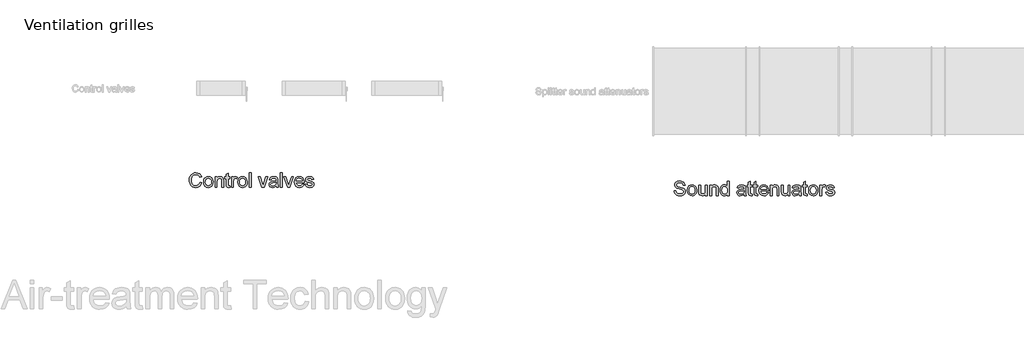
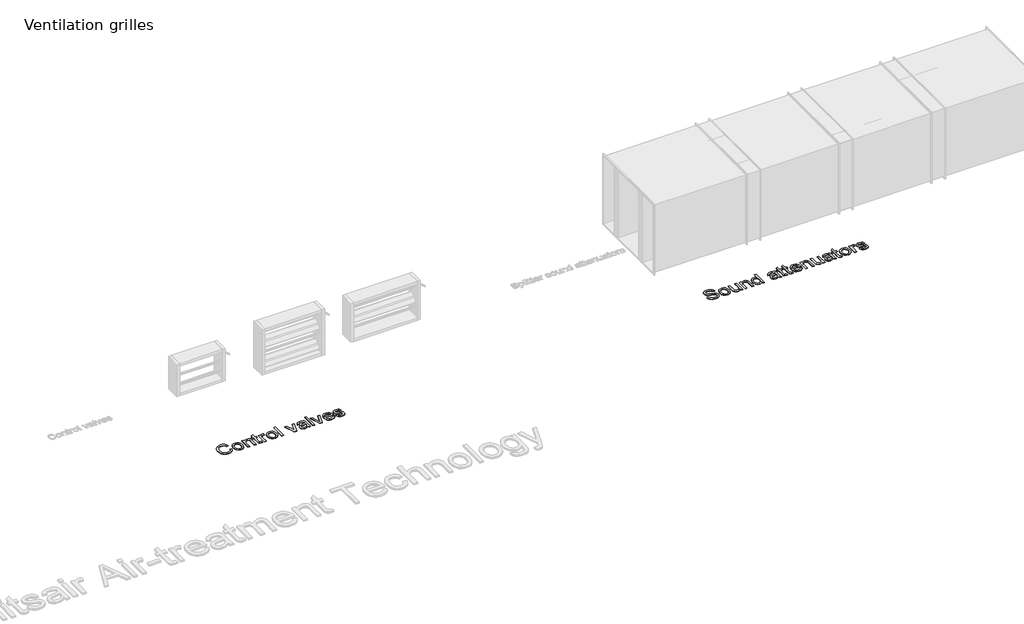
# One storey, part 6 of 10: 2 proxies.
"""IFC4 building model written with IfcOpenShell, lengths in millimetres."""

import ifcopenshell
import ifcopenshell.guid

model = None  # the IFC model being written
_history = None  # IfcOwnerHistory: only IFC2X3 demands one
_inside = {}  # id of a spatial element -> (the spatial element, [elements in it])
_under = {}  # id of a project, library or spatial element -> (it, [spatial elements below it])
_declared = {}  # id of a project -> (the project, [libraries it declares])
_typed = {}  # id of a type object -> (the type object, [elements of that type])
_made_of = {}  # id of a material, layer set ... -> (it, [elements and type objects made of it])


def new_model(schema):
    """Start an empty IFC model of exactly this schema.

    Asked for "IFC4X3", IfcOpenShell would pick the latest addendum, in which some entities
    have other attributes; the version numbers below select the first issue.
    IFC2X3 requires an IfcOwnerHistory on every rooted entity: one is made here for all.
    """
    global model, _history
    if schema == "IFC4X3":
        model = ifcopenshell.file(schema_version=(4, 3, 0, 0))
    else:
        model = ifcopenshell.file(schema=schema)
    _inside.clear()
    _under.clear()
    _declared.clear()
    _typed.clear()
    _made_of.clear()
    _history = None
    if model.schema == "IFC2X3":
        org = make("IfcOrganization", Name="unknown")
        user = make(
            "IfcPersonAndOrganization",
            ThePerson=make("IfcPerson", FamilyName="unknown"),
            TheOrganization=org,
        )
        app = make(
            "IfcApplication",
            ApplicationDeveloper=org,
            Version="unknown",
            ApplicationFullName="unknown",
            ApplicationIdentifier="unknown",
        )
        _history = make(
            "IfcOwnerHistory",
            OwningUser=user,
            OwningApplication=app,
            ChangeAction="ADDED",
            CreationDate=0,
        )
    return model


def make(cls, **values):
    """One entity of the class cls with the attributes given. An attribute that is None is left unset."""
    return model.create_entity(
        cls, **{name: value for name, value in values.items() if value is not None}
    )


def rooted(cls, **values):
    """An entity with a GlobalId (a new one), such as an element, a storey or a relation."""
    return make(cls, GlobalId=ifcopenshell.guid.new(), OwnerHistory=_history, **values)


def si_unit(unit_type, name, prefix=None):
    """IfcSIUnit, for example si_unit("LENGTHUNIT", "METRE", prefix="MILLI")."""
    return make("IfcSIUnit", UnitType=unit_type, Prefix=prefix, Name=name)


def assignment(units):
    """IfcUnitAssignment: the units of a project."""
    return None if units is None else make("IfcUnitAssignment", Units=units)


def point(xyz):
    """IfcCartesianPoint."""
    return None if xyz is None else make("IfcCartesianPoint", Coordinates=xyz)


def direction(xyz):
    """IfcDirection."""
    return None if xyz is None else make("IfcDirection", DirectionRatios=xyz)


def frame(location, z_axis=None, x_axis=None):
    """IfcAxis2Placement3D, a coordinate frame: its origin and axes. An axis left out is left unset."""
    return make(
        "IfcAxis2Placement3D",
        Location=point(location),
        Axis=direction(z_axis),
        RefDirection=direction(x_axis),
    )


def origin():
    """The frame at (0, 0, 0) with its axes left unset."""
    return frame((0.0, 0.0, 0.0))


def origin_with_axes():
    """The frame at (0, 0, 0) with the z axis (0, 0, 1) and the x axis (1, 0, 0) written out."""
    return frame((0.0, 0.0, 0.0), z_axis=(0.0, 0.0, 1.0), x_axis=(1.0, 0.0, 0.0))


def place(relative_to, where):
    """IfcLocalPlacement: puts the frame where relative to a parent placement (None: the world)."""
    return make(
        "IfcLocalPlacement", PlacementRelTo=relative_to, RelativePlacement=where
    )


def context(
    kind, dimensions, precision=None, world=None, true_north=None, identifier=None
):
    """IfcGeometricRepresentationContext, for example the 3D "Model" context."""
    return make(
        "IfcGeometricRepresentationContext",
        ContextIdentifier=identifier,
        ContextType=kind,
        CoordinateSpaceDimension=dimensions,
        Precision=precision,
        WorldCoordinateSystem=world,
        TrueNorth=true_north,
    )


def project(units=None, contexts=None):
    """IfcProject with its units and contexts."""
    return rooted(
        "IfcProject",
        Name="project",
        RepresentationContexts=contexts,
        UnitsInContext=assignment(units),
    )


def spatial(cls, under=None, at=None, **own):
    """A site, building, storey or space (cls), placed at a placement, below another one or the project."""
    s = rooted(cls, ObjectPlacement=at, **own)
    if under is not None:
        _under.setdefault(under.id(), (under, []))[1].append(s)
    return s


def polyline(points):
    """IfcPolyline through the points."""
    return make("IfcPolyline", Points=[point(p) for p in points])


def outline(outer, holes=None, kind="AREA"):
    """IfcArbitraryClosedProfileDef: a profile drawn as a closed curve; with holes, ...WithVoids."""
    if holes is None:
        return make("IfcArbitraryClosedProfileDef", ProfileType=kind, OuterCurve=outer)
    return make(
        "IfcArbitraryProfileDefWithVoids",
        ProfileType=kind,
        OuterCurve=outer,
        InnerCurves=holes,
    )


def extrude(swept, where, along, depth):
    """IfcExtrudedAreaSolid: the profile swept, set in the frame where, extruded along a direction by depth."""
    return make(
        "IfcExtrudedAreaSolid",
        SweptArea=swept,
        Position=where,
        ExtrudedDirection=direction(along),
        Depth=depth,
    )


def shape(context_of_items, identifier, shape_type, items):
    """IfcShapeRepresentation: the items that make up one representation, for example the "Body"."""
    return make(
        "IfcShapeRepresentation",
        ContextOfItems=context_of_items,
        RepresentationIdentifier=identifier,
        RepresentationType=shape_type,
        Items=items,
    )


def made_of(thing, what):
    """Note that an element or type object is made of a material, layer set ...; save() writes the relation."""
    if what is not None:
        _made_of.setdefault(what.id(), (what, []))[1].append(thing)
    return thing


def element(
    cls,
    number,
    at=None,
    inside=None,
    cuts=None,
    type_object=None,
    material=None,
    context=None,
    identifier="Body",
    shape_type=None,
    held_by="IfcProductDefinitionShape",
    body=None,
    shapes=None,
    **own,
):
    """One element of the class cls, such as IfcWall. Its Tag is "e" and its number.

    at: its placement. inside: the storey or other place that contains it. cuts: it is an
    opening in that element (IfcRelVoidsElement). A single representation is given by context,
    identifier, shape_type and body (its items); several are given by shapes. held_by: the class
    of the entity that holds the representations. save() writes the other relations.
    """
    e = rooted(cls, Tag="e%d" % number, ObjectPlacement=at, **own)
    if body is not None:
        shapes = [shape(context, identifier, shape_type, body)]
    if shapes is not None:
        e.Representation = make(held_by, Representations=shapes)
    if inside is not None:
        _inside.setdefault(inside.id(), (inside, []))[1].append(e)
    if cuts is not None:
        rooted(
            "IfcRelVoidsElement", RelatingBuildingElement=cuts, RelatedOpeningElement=e
        )
    if type_object is not None:
        _typed.setdefault(type_object.id(), (type_object, []))[1].append(e)
    return made_of(e, material)


def aggregate(whole, parts):
    """IfcRelAggregates: a whole, such as a stair, and the parts it consists of."""
    return rooted("IfcRelAggregates", RelatingObject=whole, RelatedObjects=parts)


def save(model, path):
    """Write the relations noted so far, then the file.

    IfcRelAggregates (storeys below a building ...), IfcRelContainedInSpatialStructure (elements
    in a storey), IfcRelDefinesByType, IfcRelAssociatesMaterial and IfcRelDeclares: one each for
    every whole, place, type object, material and project.
    """
    for whole, parts in _under.values():
        aggregate(whole, parts)
    for where, things in _inside.values():
        rooted(
            "IfcRelContainedInSpatialStructure",
            RelatedElements=things,
            RelatingStructure=where,
        )
    for kind, things in _typed.values():
        rooted("IfcRelDefinesByType", RelatedObjects=things, RelatingType=kind)
    for what, things in _made_of.values():
        rooted("IfcRelAssociatesMaterial", RelatedObjects=things, RelatingMaterial=what)
    for by, libraries in _declared.values():
        rooted("IfcRelDeclares", RelatingContext=by, RelatedDefinitions=libraries)
    model.write(path)


model = new_model("IFC4")

# Units and contexts
model_context = context("Model", 3, world=origin())
ifc_project = project(units=[si_unit("LENGTHUNIT", "METRE", prefix="MILLI")], contexts=[model_context])

# Site, building, storey
site = spatial("IfcSite", under=ifc_project)
building = spatial("IfcBuilding", under=site)
storey = spatial("IfcBuildingStorey", under=building, Name="Ventilation grilles", Elevation=0.0)

# Proxies
placement = place(None, origin())
element("IfcBuildingElementProxy", 1, Name="200mm", ObjectType="200mm", at=placement, inside=storey, context=model_context, shape_type="SweptSolid", body=[
    extrude(outline(polyline([(12217.5311256, -16347.8612173), (12242.6452032, -16354.3359404), (12231.0569203, -16383.6009531), (12212.871287, -16404.9810284), (12188.9834828, -16418.0592333), (12160.2886872, -16422.418635), (12131.1585645, -16419.1199597), (12108.0249184, -16409.2239341), (12090.2930062, -16393.0739145), (12077.3680855, -16371.0132575), (12069.4770167, -16345.0775768), (12066.8466604, -16317.3024862), (12069.8203732, -16288.0068167), (12078.7415116, -16262.7087981), (12093.1440917, -16242.2116396), (12112.5621297, -16227.3185502), (12135.5915426, -16218.250259), (12160.8282474, -16215.2274953), (12188.3642148, -16219.1393072), (12211.1299789, -16230.8747428), (12228.4143013, -16249.710301), (12239.5059435, -16274.9224804), (12214.3918659, -16280.9066942), (12205.6853254, -16262.5923022), (12193.7904742, -16250.029132), (12178.5601596, -16242.7634626), (12159.8472288, -16240.3415728), (12138.2770811, -16243.0271114), (12120.5574317, -16251.0837271), (12107.1113448, -16263.6652913), (12098.3618847, -16279.9256755), (12093.5610246, -16298.3075125), (12091.9607379, -16317.2534353), (12093.8553302, -16340.4545264), (12099.539107, -16360.5163579), (12109.2266663, -16376.6725089), (12123.1326057, -16388.1565585), (12139.8037914, -16395.0175577), (12157.7870896, -16397.3045574), (12178.750232, -16394.1898232), (12196.2184954, -16384.8456205), (12209.4070649, -16369.3700513), (12217.5311256, -16347.8612173)])), origin_with_axes(), (0.0, 0.0, 1.0), 5.0),
    extrude(outline(polyline([(12267.7592807, -16345.5067725), (12273.1916715, -16309.9325836), (12279.98216, -16296.1094176), (12289.4888439, -16284.9288706), (12309.6242518, -16272.6784002), (12333.7327852, -16268.59491), (12360.1160556, -16273.5674484), (12381.1895626, -16288.4850633), (12395.0035315, -16312.1705324), (12399.6081878, -16343.4466333), (12397.5725741, -16368.8182283), (12391.465733, -16388.132033), (12381.4654741, -16402.5959268), (12367.749607, -16413.4177888), (12351.458566, -16420.1684234), (12333.7327852, -16422.418635), (12307.0306837, -16417.4644908), (12285.9817022, -16402.6020582), (12272.3148861, -16378.4199483), (12267.7592807, -16345.5067725)]), holes=[polyline([(12292.8733582, -16345.4577216), (12295.779626, -16368.1866975), (12304.4984293, -16384.3796367), (12317.6195538, -16394.0733272), (12333.7327852, -16397.3045574), (12349.7724402, -16394.0549331), (12362.8690392, -16384.3060603), (12371.5878425, -16367.8985233), (12374.4941102, -16344.6729067), (12371.5694484, -16322.6061183), (12362.7954628, -16306.6339083), (12349.6804697, -16296.9402178), (12333.7327852, -16293.7089876), (12317.6195538, -16296.927955), (12304.4984293, -16306.5848574), (12295.779626, -16322.7410084), (12292.8733582, -16345.4577216)])]), origin_with_axes(), (0.0, 0.0, 1.0), 5.0),
    extrude(outline(polyline([(12427.861525, -16419.2793753), (12427.861525, -16271.7341697), (12452.9756025, -16271.7341697), (12452.9756025, -16292.3355615), (12461.7005372, -16281.9490265), (12472.1790427, -16274.5300729), (12484.411119, -16270.0787008), (12498.3967662, -16268.59491), (12522.1128922, -16273.377376), (12538.2997, -16285.9344148), (12545.8290181, -16304.4020909), (12547.1533933, -16328.6823026), (12547.1533933, -16419.2793753), (12522.0393158, -16419.2793753), (12522.0393158, -16332.0668169), (12519.1453107, -16309.8467444), (12508.9181913, -16298.0990461), (12491.6767884, -16293.7089876), (12476.96764, -16296.173797), (12464.4289953, -16303.5682251), (12455.8389507, -16317.8543092), (12452.9756025, -16340.9940867), (12452.9756025, -16419.2793753), (12427.861525, -16419.2793753)])), origin_with_axes(), (0.0, 0.0, 1.0), 5.0),
    extrude(outline(polyline([(12635.0526647, -16398.334627), (12638.1919244, -16420.0151393), (12619.4054172, -16422.418635), (12598.362567, -16418.2493057), (12587.8656674, -16407.3109477), (12584.8245096, -16378.8123558), (12584.8245096, -16296.8482473), (12565.9889515, -16296.8482473), (12565.9889515, -16271.7341697), (12584.8245096, -16271.7341697), (12584.8245096, -16235.8779379), (12609.9385872, -16221.1136072), (12609.9385872, -16271.7341697), (12635.0526647, -16271.7341697), (12635.0526647, -16296.8482473), (12609.9385872, -16296.8482473), (12609.9385872, -16378.0765918), (12611.2629623, -16391.026038), (12615.554919, -16395.6123003), (12624.1143067, -16397.3045574), (12635.0526647, -16398.334627)])), origin_with_axes(), (0.0, 0.0, 1.0), 5.0),
    extrude(outline(polyline([(12660.1667422, -16419.2793753), (12660.1667422, -16271.7341697), (12682.1415601, -16271.7341697), (12682.1415601, -16293.5618348), (12697.7397567, -16273.4509524), (12713.4360551, -16268.59491), (12725.944043, -16270.5324219), (12738.6482345, -16276.3449574), (12730.260525, -16298.8593355), (12712.6021893, -16293.7089876), (12698.4019443, -16298.6631318), (12689.3520472, -16312.3973929), (12685.2808198, -16341.7298507), (12685.2808198, -16419.2793753), (12660.1667422, -16419.2793753)])), origin_with_axes(), (0.0, 0.0, 1.0), 5.0),
    extrude(outline(polyline([(12748.0660136, -16345.5067725), (12753.4984044, -16309.9325836), (12760.2888929, -16296.1094176), (12769.7955768, -16284.9288706), (12789.9309847, -16272.6784002), (12814.0395181, -16268.59491), (12840.4227885, -16273.5674484), (12861.4962955, -16288.4850633), (12875.3102644, -16312.1705324), (12879.9149207, -16343.4466333), (12877.879307, -16368.8182283), (12871.7724659, -16388.132033), (12861.772207, -16402.5959268), (12848.0563399, -16413.4177888), (12831.7652989, -16420.1684234), (12814.0395181, -16422.418635), (12787.3374166, -16417.4644908), (12766.2884351, -16402.6020582), (12752.621619, -16378.4199483), (12748.0660136, -16345.5067725)]), holes=[polyline([(12773.1800912, -16345.4577216), (12776.0863589, -16368.1866975), (12784.8051622, -16384.3796367), (12797.9262867, -16394.0733272), (12814.0395181, -16397.3045574), (12830.0791731, -16394.0549331), (12843.1757721, -16384.3060603), (12851.8945754, -16367.8985233), (12854.8008431, -16344.6729067), (12851.8761813, -16322.6061183), (12843.1021957, -16306.6339083), (12829.9872026, -16296.9402178), (12814.0395181, -16293.7089876), (12797.9262867, -16296.927955), (12784.8051622, -16306.5848574), (12776.0863589, -16322.7410084), (12773.1800912, -16345.4577216)])]), origin_with_axes(), (0.0, 0.0, 1.0), 5.0),
    extrude(outline(polyline([(12908.1682579, -16419.2793753), (12908.1682579, -16218.366755), (12933.2823355, -16218.366755), (12933.2823355, -16419.2793753), (12908.1682579, -16419.2793753)])), origin_with_axes(), (0.0, 0.0, 1.0), 5.0),
    extrude(outline(polyline([(13085.6345324, -16419.2793753), (13033.7386456, -16271.7341697), (13060.3242511, -16271.7341697), (13091.765899, -16360.1239504), (13101.232729, -16389.8488157), (13110.5033553, -16361.7916822), (13142.1412068, -16271.7341697), (13168.7268124, -16271.7341697), (13117.4685877, -16419.2793753), (13085.6345324, -16419.2793753)])), origin_with_axes(), (0.0, 0.0, 1.0), 5.0),
    extrude(outline(polyline([(13284.879421, -16400.4438171), (13260.5256329, -16417.4644908), (13233.6211963, -16422.418635), (13212.6335285, -16419.4387908), (13197.1518279, -16410.4992583), (13187.6052901, -16396.9244127), (13184.4231108, -16380.0386291), (13189.2301022, -16360.1730014), (13201.8607174, -16345.7520272), (13219.4454768, -16337.5114705), (13241.1750399, -16333.7345487), (13284.7322682, -16325.1015845), (13284.879421, -16319.5097782), (13283.1503756, -16308.3016401), (13277.9632395, -16300.9685256), (13266.3626939, -16295.5238721), (13250.2004116, -16293.7089876), (13235.2398771, -16294.9168668), (13224.7920284, -16298.5405045), (13217.6673805, -16305.2420881), (13212.6764481, -16315.6838054), (13187.5623705, -16312.5445457), (13198.4271521, -16288.0190794), (13207.6855157, -16279.76626), (13220.3038681, -16273.6471561), (13253.4377731, -16268.59491), (13283.8738769, -16273.0585449), (13301.0662288, -16284.266683), (13308.7672252, -16301.3118822), (13309.9934985, -16323.2867), (13309.9934985, -16354.5321441), (13311.2688228, -16398.1629487), (13316.2720179, -16419.2793753), (13291.1579404, -16419.2793753), (13284.879421, -16400.4438171)]), holes=[polyline([(13284.879421, -16350.215662), (13244.3633506, -16357.9166585), (13222.7564147, -16361.9878859), (13212.9707537, -16368.6097618), (13209.5371884, -16378.2727955), (13211.4072552, -16385.7408), (13217.0174556, -16391.8599039), (13226.2451623, -16395.943394), (13238.967748, -16397.3045574), (13252.4567545, -16395.8023726), (13264.3761311, -16391.2958182), (13280.7591426, -16376.7522166), (13284.7322682, -16357.3280473), (13284.879421, -16350.215662)])]), origin_with_axes(), (0.0, 0.0, 1.0), 5.0),
    extrude(outline(polyline([(13344.5253551, -16419.2793753), (13344.5253551, -16218.366755), (13369.6394327, -16218.366755), (13369.6394327, -16419.2793753), (13344.5253551, -16419.2793753)])), origin_with_axes(), (0.0, 0.0, 1.0), 5.0),
    extrude(outline(polyline([(13443.5101373, -16419.2793753), (13391.6142505, -16271.7341697), (13418.199856, -16271.7341697), (13449.6415039, -16360.1239504), (13459.1083339, -16389.8488157), (13468.3789602, -16361.7916822), (13500.0168118, -16271.7341697), (13526.6024173, -16271.7341697), (13475.3441926, -16419.2793753), (13443.5101373, -16419.2793753)])), origin_with_axes(), (0.0, 0.0, 1.0), 5.0),
    extrude(outline(polyline([(13651.8784994, -16375.3297396), (13676.5020676, -16378.4689993), (13667.6299801, -16397.0225146), (13653.4726547, -16410.8916658), (13634.3489223, -16419.5368927), (13610.577614, -16422.418635), (13581.1102662, -16417.4460967), (13558.4364726, -16402.5284818), (13543.9787102, -16378.6345462), (13539.159456, -16346.7330458), (13544.0277611, -16313.7585563), (13558.6326763, -16289.0981999), (13580.9999016, -16273.7207325), (13609.155137, -16268.59491), (13636.4335869, -16273.7084698), (13658.2305951, -16289.049149), (13672.5228107, -16313.6604545), (13677.2868825, -16346.585893), (13677.1397297, -16353.3549217), (13564.2735336, -16353.3549217), (13568.6206725, -16372.1536917), (13578.7190333, -16385.973792), (13593.2932916, -16394.4718661), (13611.0681234, -16397.3045574), (13635.6916916, -16392.0561076), (13644.8396905, -16385.2502907), (13651.8784994, -16375.3297396)]), holes=[polyline([(13564.2735336, -16328.2408442), (13652.172805, -16328.2408442), (13648.7760279, -16314.9725669), (13642.1173638, -16305.4812114), (13627.4756603, -16296.6520435), (13609.0570351, -16293.7089876), (13592.128332, -16296.057301), (13578.1304221, -16303.1022412), (13568.3999433, -16314.0835188), (13564.2735336, -16328.2408442)])]), origin_with_axes(), (0.0, 0.0, 1.0), 5.0),
    extrude(outline(polyline([(13692.983181, -16375.3297396), (13718.0972585, -16372.1904799), (13722.0581213, -16382.9326341), (13729.7223295, -16390.8298343), (13741.1389341, -16395.6858766), (13756.356986, -16397.3045574), (13771.3910969, -16395.8207667), (13781.9615729, -16391.3693946), (13788.2155668, -16384.9191969), (13790.3002314, -16377.4389297), (13788.203304, -16371.037783), (13781.9125219, -16366.1572152), (13756.0626804, -16358.995779), (13718.2444113, -16346.7085204), (13708.6733481, -16340.5342342), (13701.7387724, -16332.3611225), (13696.1224406, -16312.1030873), (13700.6351265, -16293.3901565), (13712.9469106, -16279.0918096), (13728.9129892, -16271.6605933), (13750.519925, -16268.59491), (13781.0786561, -16273.5245288), (13792.5075234, -16279.3248016), (13800.5028254, -16286.8663825), (13809.1357896, -16309.405286), (13784.021712, -16312.5445457), (13780.8517955, -16304.6412142), (13774.5794075, -16298.6876573), (13752.4819623, -16293.7089876), (13738.0609881, -16294.8984727), (13728.4470053, -16298.4669281), (13723.03914, -16303.617276), (13721.2365182, -16309.5524388), (13724.2286251, -16316.8610278), (13733.5973532, -16322.4037832), (13755.2288145, -16327.7503349), (13792.0905905, -16339.5716097), (13809.209366, -16352.9625143), (13813.8630732, -16362.809489), (13815.414309, -16374.7901793), (13813.5932931, -16387.1755398), (13808.1302454, -16398.8251363), (13799.2336325, -16408.8253952), (13787.1119208, -16416.2627429), (13772.4702174, -16420.879662), (13756.0136295, -16422.418635), (13730.6910855, -16419.4510535), (13712.2111466, -16410.5483093), (13699.874837, -16395.808504), (13692.983181, -16375.3297396)])), origin_with_axes(), (0.0, 0.0, 1.0), 5.0),
])
element("IfcBuildingElementProxy", 2, Name="200mm", ObjectType="200mm", at=placement, inside=storey, context=model_context, shape_type="SweptSolid", body=[
    extrude(outline(polyline([(18861.4200018, -16466.1604862), (18886.5340794, -16466.1604862), (18894.6274833, -16491.2990893), (18902.7576754, -16500.1895708), (18914.3950091, -16507.1915914), (18928.6197796, -16511.7349341), (18944.5122818, -16513.2493816), (18970.7545308, -16508.6631194), (18987.701628, -16496.0570297), (18993.2689089, -16479.2080343), (18989.0995796, -16463.5362613), (18982.7474838, -16457.3374497), (18972.029855, -16452.1319195), (18935.4623847, -16442.5424622), (18896.0990112, -16430.1571017), (18883.5971548, -16421.7080785), (18874.7373301, -16411.4686963), (18869.4582234, -16399.6596843), (18867.6985212, -16386.5017716), (18869.8751563, -16371.7926231), (18876.4050618, -16358.0767561), (18887.1165592, -16346.451685), (18901.8379704, -16338.0149246), (18919.5085689, -16332.8829708), (18939.0676283, -16331.1723195), (18960.2576312, -16332.9626785), (18978.7988838, -16338.3337557), (18994.0291984, -16347.1751863), (19005.2863874, -16359.3766058), (19012.4110354, -16374.1777247), (19015.2437267, -16390.8182536), (18990.1296492, -16390.8182536), (18985.5188615, -16375.8331937), (18975.9048787, -16365.017463), (18960.8830306, -16358.4691635), (18940.0486469, -16356.286397), (18918.7237539, -16358.4446381), (18904.0943133, -16364.9193612), (18895.6330274, -16374.4475048), (18892.8125987, -16385.7660076), (18894.8114243, -16395.4167786), (18900.8079008, -16403.1790887), (18914.9836203, -16410.1197956), (18941.8144805, -16417.2076554), (18986.2546255, -16429.8137451), (19000.5713665, -16438.9249559), (19010.5593627, -16450.1698822), (19016.4270805, -16463.4258967), (19018.3829864, -16478.5703722), (19016.1327749, -16494.0520728), (19009.3821403, -16508.6140685), (18998.4069941, -16521.1465818), (18983.4832478, -16530.5398354), (18965.5367378, -16536.4075532), (18945.4933005, -16538.3634592), (18920.8881263, -16536.2542691), (18900.6362225, -16529.9266987), (18884.504597, -16519.3562227), (18872.260258, -16504.5183156), (18864.399846, -16486.4430469), (18861.4200018, -16466.1604862)])), origin_with_axes(), (0.0, 0.0, 1.0), 5.0),
    extrude(outline(polyline([(19046.6363237, -16461.4515967), (19052.0687145, -16425.8774078), (19058.859203, -16412.0542418), (19068.3658868, -16400.8736948), (19088.5012947, -16388.6232244), (19112.6098281, -16384.5397342), (19138.9930986, -16389.5122726), (19160.0666055, -16404.4298875), (19173.8805744, -16428.1153566), (19178.4852307, -16459.3914575), (19176.449617, -16484.7630525), (19170.3427759, -16504.0768572), (19160.342517, -16518.540751), (19146.62665, -16529.362613), (19130.3356089, -16536.1132476), (19112.6098281, -16538.3634592), (19085.9077267, -16533.409315), (19064.8587452, -16518.5468824), (19051.191929, -16494.3647725), (19046.6363237, -16461.4515967)]), holes=[polyline([(19071.7504012, -16461.4025458), (19074.656669, -16484.1315217), (19083.3754723, -16500.3244609), (19096.4965967, -16510.0181514), (19112.6098281, -16513.2493816), (19128.6494831, -16509.9997573), (19141.7460822, -16500.2508845), (19150.4648854, -16483.8433475), (19153.3711532, -16460.6177309), (19150.4464913, -16438.5509425), (19141.6725058, -16422.5787326), (19128.5575126, -16412.885042), (19112.6098281, -16409.6538118), (19096.4965967, -16412.8727792), (19083.3754723, -16422.5296816), (19074.656669, -16438.6858326), (19071.7504012, -16461.4025458)])]), origin_with_axes(), (0.0, 0.0, 1.0), 5.0),
    extrude(outline(polyline([(19300.9163587, -16535.2241995), (19300.9163587, -16509.8648673), (19291.8296735, -16522.3330012), (19281.2469347, -16531.2388112), (19269.1681425, -16536.5822972), (19255.5932969, -16538.3634592), (19231.9752728, -16533.360264), (19215.6903632, -16520.8032253), (19208.2100959, -16502.3110236), (19206.738568, -16478.9627797), (19206.738568, -16387.6789939), (19231.8526455, -16387.6789939), (19231.8526455, -16467.1415049), (19233.3732244, -16492.7460918), (19237.0336503, -16501.2870854), (19243.3060383, -16507.7802026), (19262.0189691, -16513.2493816), (19282.9882428, -16507.6575753), (19291.3452955, -16501.0540935), (19296.8451313, -16492.4272607), (19300.9163587, -16464.4437036), (19300.9163587, -16387.6789939), (19326.0304363, -16387.6789939), (19326.0304363, -16535.2241995), (19300.9163587, -16535.2241995)])), origin_with_axes(), (0.0, 0.0, 1.0), 5.0),
    extrude(outline(polyline([(19360.5622929, -16535.2241995), (19360.5622929, -16387.6789939), (19385.6763704, -16387.6789939), (19385.6763704, -16408.2803857), (19394.4013051, -16397.8938507), (19404.8798106, -16390.4748971), (19417.1118869, -16386.023525), (19431.0975341, -16384.5397342), (19454.81366, -16389.3222002), (19471.0004678, -16401.879239), (19478.529786, -16420.3469151), (19479.8541612, -16444.6271268), (19479.8541612, -16535.2241995), (19454.7400836, -16535.2241995), (19454.7400836, -16448.0116412), (19451.8460786, -16425.7915686), (19441.6189592, -16414.0438703), (19424.3775563, -16409.6538118), (19409.6684079, -16412.1186212), (19397.1297632, -16419.5130493), (19388.5397186, -16433.7991334), (19385.6763704, -16456.9389109), (19385.6763704, -16535.2241995), (19360.5622929, -16535.2241995)])), origin_with_axes(), (0.0, 0.0, 1.0), 5.0),
    extrude(outline(polyline([(19605.4245489, -16535.2241995), (19605.4245489, -16511.532599), (19597.9105591, -16523.2711003), (19588.8085454, -16531.6557441), (19578.1185078, -16536.6865304), (19565.8404462, -16538.3634592), (19549.6045875, -16535.935438), (19534.7421549, -16528.6513745), (19522.1605906, -16517.0201721), (19512.767337, -16501.5507342), (19506.9180133, -16482.8684602), (19504.9682387, -16461.5987495), (19506.7647291, -16440.5926876), (19512.1542004, -16421.6222394), (19521.130521, -16405.7665254), (19533.6875598, -16394.1046661), (19548.8749548, -16386.9309672), (19565.7423443, -16384.5397342), (19578.029603, -16386.2503855), (19588.8943846, -16391.3823394), (19605.4245489, -16409.1633025), (19605.4245489, -16334.3115792), (19630.5386264, -16334.3115792), (19630.5386264, -16535.2241995), (19605.4245489, -16535.2241995)]), holes=[polyline([(19530.0823163, -16461.5006476), (19532.9150076, -16484.2173608), (19541.4130817, -16500.3735118), (19553.761654, -16510.0304142), (19568.14584, -16513.2493816), (19582.5238947, -16510.177567), (19594.5597673, -16500.962123), (19602.7083535, -16485.4313714), (19605.4245489, -16463.413634), (19602.6593025, -16439.3418888), (19594.3635636, -16422.652309), (19582.0211226, -16412.9034361), (19567.1157704, -16409.6538118), (19552.5844316, -16412.7746774), (19540.6773177, -16422.1372742), (19532.7310666, -16438.2198487), (19530.0823163, -16461.5006476)])]), origin_with_axes(), (0.0, 0.0, 1.0), 5.0),
    extrude(outline(polyline([(19840.8690258, -16516.3886413), (19816.5152377, -16533.409315), (19789.6108011, -16538.3634592), (19768.6231333, -16535.383615), (19753.1414327, -16526.4440825), (19743.5948949, -16512.8692369), (19740.4127156, -16495.9834533), (19745.219707, -16476.1178256), (19757.8503222, -16461.6968514), (19775.4350816, -16453.4562947), (19797.1646448, -16449.6793729), (19840.721873, -16441.0464087), (19840.8690258, -16435.4546024), (19839.1399804, -16424.2464643), (19833.9528443, -16416.9133498), (19822.3522987, -16411.4686963), (19806.1900164, -16409.6538118), (19791.2294819, -16410.861691), (19780.7816332, -16414.4853287), (19773.6569853, -16421.1869123), (19768.6660529, -16431.6286296), (19743.5519753, -16428.4893699), (19754.4167569, -16403.9639036), (19763.6751205, -16395.7110842), (19776.2934729, -16389.5919803), (19809.4273779, -16384.5397342), (19839.8634817, -16389.0033691), (19857.0558336, -16400.2115072), (19864.75683, -16417.2567064), (19865.9831033, -16439.2315242), (19865.9831033, -16470.4769683), (19867.2584276, -16514.107773), (19872.2616227, -16535.2241995), (19847.1475452, -16535.2241995), (19840.8690258, -16516.3886413)]), holes=[polyline([(19840.8690258, -16466.1604862), (19800.3529554, -16473.8614827), (19778.7460195, -16477.9327101), (19768.9603585, -16484.554586), (19765.5267932, -16494.2176197), (19767.39686, -16501.6856242), (19773.0070604, -16507.8047281), (19782.2347671, -16511.8882182), (19794.9573528, -16513.2493816), (19808.4463593, -16511.7471968), (19820.3657359, -16507.2406424), (19836.7487474, -16492.6970408), (19840.721873, -16473.2728715), (19840.8690258, -16466.1604862)])]), origin_with_axes(), (0.0, 0.0, 1.0), 5.0),
    extrude(outline(polyline([(19953.8823747, -16514.2794512), (19957.0216344, -16535.9599635), (19938.2351272, -16538.3634592), (19917.1922771, -16534.1941299), (19906.6953775, -16523.2557719), (19903.6542196, -16494.75718), (19903.6542196, -16412.7930715), (19884.8186615, -16412.7930715), (19884.8186615, -16387.6789939), (19903.6542196, -16387.6789939), (19903.6542196, -16351.8227621), (19928.7682972, -16337.0584314), (19928.7682972, -16387.6789939), (19953.8823747, -16387.6789939), (19953.8823747, -16412.7930715), (19928.7682972, -16412.7930715), (19928.7682972, -16494.021416), (19930.0926723, -16506.9708622), (19934.384629, -16511.5571245), (19942.9440167, -16513.2493816), (19953.8823747, -16514.2794512)])), origin_with_axes(), (0.0, 0.0, 1.0), 5.0),
    extrude(outline(polyline([(20032.363867, -16514.2794512), (20035.5031267, -16535.9599635), (20016.7166195, -16538.3634592), (19995.6737694, -16534.1941299), (19985.1768698, -16523.2557719), (19982.1357119, -16494.75718), (19982.1357119, -16412.7930715), (19963.3001538, -16412.7930715), (19963.3001538, -16387.6789939), (19982.1357119, -16387.6789939), (19982.1357119, -16351.8227621), (20007.2497895, -16337.0584314), (20007.2497895, -16387.6789939), (20032.363867, -16387.6789939), (20032.363867, -16412.7930715), (20007.2497895, -16412.7930715), (20007.2497895, -16494.021416), (20008.5741647, -16506.9708622), (20012.8661213, -16511.5571245), (20021.425509, -16513.2493816), (20032.363867, -16514.2794512)])), origin_with_axes(), (0.0, 0.0, 1.0), 5.0),
    extrude(outline(polyline([(20160.7792088, -16491.2745638), (20185.402777, -16494.4138235), (20176.5306896, -16512.9673388), (20162.3733641, -16526.83649), (20143.2496317, -16535.4817169), (20119.4783235, -16538.3634592), (20090.0109757, -16533.3909209), (20067.337182, -16518.473306), (20052.8794196, -16494.5793704), (20048.0601655, -16462.67787), (20052.9284705, -16429.7033805), (20067.5333857, -16405.0430241), (20089.9006111, -16389.6655567), (20118.0558464, -16384.5397342), (20145.3342964, -16389.653294), (20167.1313046, -16404.9939732), (20181.4235201, -16429.6052787), (20186.1875919, -16462.5307172), (20186.0404391, -16469.2997459), (20073.174243, -16469.2997459), (20077.5213819, -16488.0985159), (20087.6197427, -16501.9186162), (20102.1940011, -16510.4166903), (20119.9688328, -16513.2493816), (20144.592401, -16508.0009318), (20153.7404, -16501.1951149), (20160.7792088, -16491.2745638)]), holes=[polyline([(20073.174243, -16444.1856684), (20161.0735144, -16444.1856684), (20157.6767373, -16430.9173911), (20151.0180732, -16421.4260356), (20136.3763698, -16412.5968677), (20117.9577446, -16409.6538118), (20101.0290414, -16412.0021252), (20087.0311315, -16419.0470654), (20077.3006527, -16430.028343), (20073.174243, -16444.1856684)])]), origin_with_axes(), (0.0, 0.0, 1.0), 5.0),
    extrude(outline(polyline([(20211.3016695, -16535.2241995), (20211.3016695, -16387.6789939), (20236.415747, -16387.6789939), (20236.415747, -16408.2803857), (20245.1406817, -16397.8938507), (20255.6191871, -16390.4748971), (20267.8512635, -16386.023525), (20281.8369107, -16384.5397342), (20305.5530366, -16389.3222002), (20321.7398444, -16401.879239), (20329.2691626, -16420.3469151), (20330.5935378, -16444.6271268), (20330.5935378, -16535.2241995), (20305.4794602, -16535.2241995), (20305.4794602, -16448.0116412), (20302.5854552, -16425.7915686), (20292.3583357, -16414.0438703), (20275.1169329, -16409.6538118), (20260.4077845, -16412.1186212), (20247.8691398, -16419.5130493), (20239.2790952, -16433.7991334), (20236.415747, -16456.9389109), (20236.415747, -16535.2241995), (20211.3016695, -16535.2241995)])), origin_with_axes(), (0.0, 0.0, 1.0), 5.0),
    extrude(outline(polyline([(20459.3031851, -16535.2241995), (20459.3031851, -16509.8648673), (20450.2164999, -16522.3330012), (20439.6337611, -16531.2388112), (20427.554969, -16536.5822972), (20413.9801233, -16538.3634592), (20390.3620992, -16533.360264), (20374.0771896, -16520.8032253), (20366.5969224, -16502.3110236), (20365.1253944, -16478.9627797), (20365.1253944, -16387.6789939), (20390.2394719, -16387.6789939), (20390.2394719, -16467.1415049), (20391.7600508, -16492.7460918), (20395.4204767, -16501.2870854), (20401.6928647, -16507.7802026), (20420.4057955, -16513.2493816), (20441.3750692, -16507.6575753), (20449.7321219, -16501.0540935), (20455.2319577, -16492.4272607), (20459.3031851, -16464.4437036), (20459.3031851, -16387.6789939), (20484.4172627, -16387.6789939), (20484.4172627, -16535.2241995), (20459.3031851, -16535.2241995)])), origin_with_axes(), (0.0, 0.0, 1.0), 5.0),
    extrude(outline(polyline([(20613.1269101, -16516.3886413), (20588.773122, -16533.409315), (20561.8686854, -16538.3634592), (20540.8810176, -16535.383615), (20525.3993169, -16526.4440825), (20515.8527792, -16512.8692369), (20512.6705999, -16495.9834533), (20517.4775913, -16476.1178256), (20530.1082065, -16461.6968514), (20547.6929659, -16453.4562947), (20569.422529, -16449.6793729), (20612.9797573, -16441.0464087), (20613.1269101, -16435.4546024), (20611.3978647, -16424.2464643), (20606.2107286, -16416.9133498), (20594.610183, -16411.4686963), (20578.4479006, -16409.6538118), (20563.4873662, -16410.861691), (20553.0395175, -16414.4853287), (20545.9148695, -16421.1869123), (20540.9239371, -16431.6286296), (20515.8098596, -16428.4893699), (20526.6746412, -16403.9639036), (20535.9330047, -16395.7110842), (20548.5513572, -16389.5919803), (20581.6852622, -16384.5397342), (20612.1213659, -16389.0033691), (20629.3137178, -16400.2115072), (20637.0147143, -16417.2567064), (20638.2409876, -16439.2315242), (20638.2409876, -16470.4769683), (20639.5163118, -16514.107773), (20644.519507, -16535.2241995), (20619.4054294, -16535.2241995), (20613.1269101, -16516.3886413)]), holes=[polyline([(20613.1269101, -16466.1604862), (20572.6108397, -16473.8614827), (20551.0039038, -16477.9327101), (20541.2182427, -16484.554586), (20537.7846774, -16494.2176197), (20539.6547443, -16501.6856242), (20545.2649447, -16507.8047281), (20554.4926514, -16511.8882182), (20567.2152371, -16513.2493816), (20580.7042436, -16511.7471968), (20592.6236202, -16507.2406424), (20609.0066317, -16492.6970408), (20612.9797573, -16473.2728715), (20613.1269101, -16466.1604862)])]), origin_with_axes(), (0.0, 0.0, 1.0), 5.0),
    extrude(outline(polyline([(20726.140259, -16514.2794512), (20729.2795187, -16535.9599635), (20710.4930115, -16538.3634592), (20689.4501613, -16534.1941299), (20678.9532617, -16523.2557719), (20675.9121039, -16494.75718), (20675.9121039, -16412.7930715), (20657.0765458, -16412.7930715), (20657.0765458, -16387.6789939), (20675.9121039, -16387.6789939), (20675.9121039, -16351.8227621), (20701.0261814, -16337.0584314), (20701.0261814, -16387.6789939), (20726.140259, -16387.6789939), (20726.140259, -16412.7930715), (20701.0261814, -16412.7930715), (20701.0261814, -16494.021416), (20702.3505566, -16506.9708622), (20706.6425132, -16511.5571245), (20715.201901, -16513.2493816), (20726.140259, -16514.2794512)])), origin_with_axes(), (0.0, 0.0, 1.0), 5.0),
    extrude(outline(polyline([(20744.9758171, -16461.4515967), (20750.4082079, -16425.8774078), (20757.1986964, -16412.0542418), (20766.7053803, -16400.8736948), (20786.8407882, -16388.6232244), (20810.9493216, -16384.5397342), (20837.332592, -16389.5122726), (20858.406099, -16404.4298875), (20872.2200679, -16428.1153566), (20876.8247242, -16459.3914575), (20874.7891105, -16484.7630525), (20868.6822694, -16504.0768572), (20858.6820105, -16518.540751), (20844.9661434, -16529.362613), (20828.6751024, -16536.1132476), (20810.9493216, -16538.3634592), (20784.2472201, -16533.409315), (20763.1982386, -16518.5468824), (20749.5314225, -16494.3647725), (20744.9758171, -16461.4515967)]), holes=[polyline([(20770.0898947, -16461.4025458), (20772.9961624, -16484.1315217), (20781.7149657, -16500.3244609), (20794.8360902, -16510.0181514), (20810.9493216, -16513.2493816), (20826.9889766, -16509.9997573), (20840.0855756, -16500.2508845), (20848.8043789, -16483.8433475), (20851.7106467, -16460.6177309), (20848.7859848, -16438.5509425), (20840.0119992, -16422.5787326), (20826.8970061, -16412.885042), (20810.9493216, -16409.6538118), (20794.8360902, -16412.8727792), (20781.7149657, -16422.5296816), (20772.9961624, -16438.6858326), (20770.0898947, -16461.4025458)])]), origin_with_axes(), (0.0, 0.0, 1.0), 5.0),
    extrude(outline(polyline([(20905.0780614, -16535.2241995), (20905.0780614, -16387.6789939), (20927.0528793, -16387.6789939), (20927.0528793, -16409.506659), (20942.6510759, -16389.3957766), (20958.3473743, -16384.5397342), (20970.8553622, -16386.4772461), (20983.5595537, -16392.2897816), (20975.1718442, -16414.8041597), (20957.5135085, -16409.6538118), (20943.3132635, -16414.607956), (20934.2633664, -16428.3422171), (20930.192139, -16457.6746749), (20930.192139, -16535.2241995), (20905.0780614, -16535.2241995)])), origin_with_axes(), (0.0, 0.0, 1.0), 5.0),
    extrude(outline(polyline([(20989.8380731, -16491.2745638), (21014.9521507, -16488.1353041), (21018.9130135, -16498.8774584), (21026.5772217, -16506.7746585), (21037.9938263, -16511.6307009), (21053.2118782, -16513.2493816), (21068.245989, -16511.7655909), (21078.816465, -16507.3142188), (21085.0704589, -16500.8640211), (21087.1551236, -16493.3837539), (21085.0581962, -16486.9826072), (21078.7674141, -16482.1020394), (21052.9175726, -16474.9406032), (21015.0993035, -16462.6533446), (21005.5282402, -16456.4790584), (20998.5936646, -16448.3059467), (20992.9773328, -16428.0479115), (20997.4900186, -16409.3349807), (21009.8018027, -16395.0366338), (21025.7678813, -16387.6054175), (21047.3748172, -16384.5397342), (21077.9335482, -16389.469353), (21089.3624156, -16395.2696258), (21097.3577176, -16402.8112067), (21105.9906817, -16425.3501102), (21080.8766042, -16428.4893699), (21077.7066877, -16420.5860384), (21071.4342997, -16414.6324815), (21049.3368545, -16409.6538118), (21034.9158803, -16410.8432969), (21025.3018975, -16414.4117523), (21019.8940321, -16419.5621002), (21018.0914104, -16425.497263), (21021.0835172, -16432.805852), (21030.4522454, -16438.3486074), (21052.0837067, -16443.6951591), (21088.9454826, -16455.5164339), (21106.0642581, -16468.9073385), (21110.7179654, -16478.7543132), (21112.2692011, -16490.7350035), (21110.4481852, -16503.120364), (21104.9851376, -16514.7699605), (21096.0885247, -16524.7702194), (21083.966813, -16532.2075671), (21069.3251095, -16536.8244862), (21052.8685216, -16538.3634592), (21027.5459776, -16535.3958777), (21009.0660387, -16526.4931335), (20996.7297292, -16511.7533282), (20989.8380731, -16491.2745638)])), origin_with_axes(), (0.0, 0.0, 1.0), 5.0),
])

save(model, "model.ifc")
